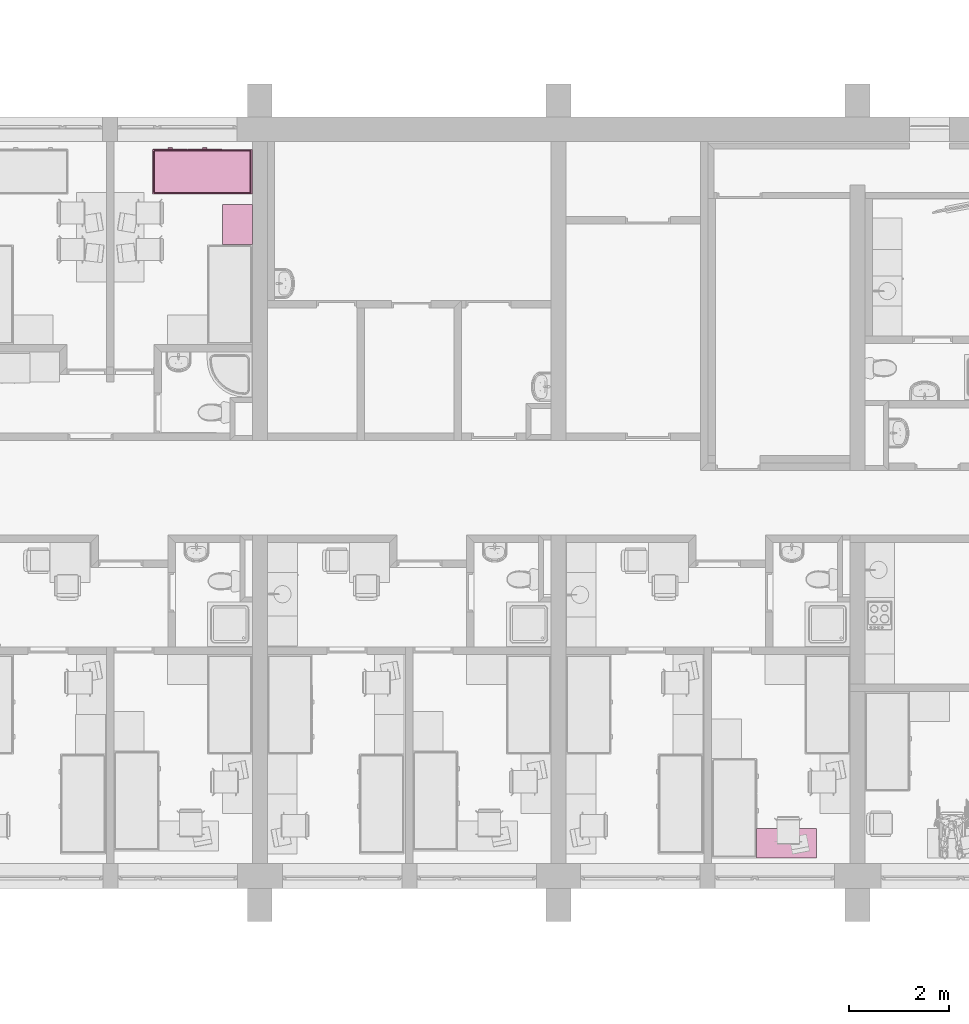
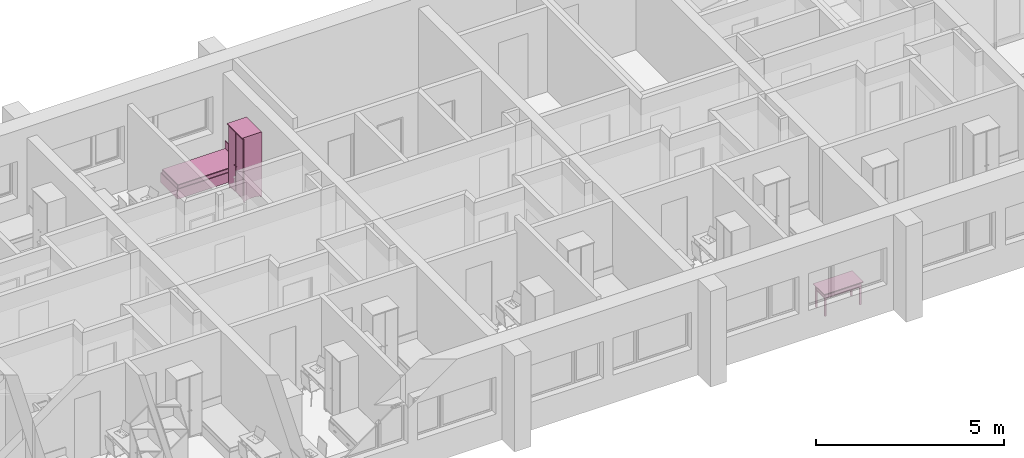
# One storey, part 115 of 172: 3 furnishings.
"""IFC2X3 building model written with IfcOpenShell, lengths in millimetres."""

from ifc_helpers import new_model, entity, si_unit, converted_unit, money_unit, direction, frame, origin_with_axes, place, context, subcontext, project, spatial, faceted_brep, source, transform, mapped, material, material_list, type_object, element, save


model = new_model("IFC2X3")

# Units and contexts
model_context = context("Model", 3, precision=1e-05, world=origin_with_axes(), true_north=direction((0.0, 1.0)))
body_context = subcontext(model_context, "Body", "Model", "MODEL_VIEW")
ifc_project = project(units=[si_unit("LENGTHUNIT", "METRE", prefix="MILLI"), si_unit("AREAUNIT", "SQUARE_METRE"), si_unit("VOLUMEUNIT", "CUBIC_METRE"), converted_unit("PLANEANGLEUNIT", "DEGREE", entity("IfcPlaneAngleMeasure", 0.0174532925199), si_unit("PLANEANGLEUNIT", "RADIAN"), dimensions=[0, 0, 0, 0, 0, 0, 0]), si_unit("SOLIDANGLEUNIT", "STERADIAN"), money_unit("USD"), converted_unit("TIMEUNIT", "Year", entity("IfcTimeMeasure", 31556926.0), si_unit("TIMEUNIT", "SECOND"), dimensions=[0, 0, 0, 0, 0, 0, 0]), si_unit("MASSUNIT", "GRAM"), si_unit("THERMODYNAMICTEMPERATUREUNIT", "DEGREE_CELSIUS"), si_unit("LUMINOUSINTENSITYUNIT", "LUMEN")], contexts=[model_context])

# Site, building, storey
site_placement = place(None, origin_with_axes())
site = spatial("IfcSite", under=ifc_project, at=site_placement, Name="Site", CompositionType="ELEMENT")
building_placement = place(site_placement, origin_with_axes())
building = spatial("IfcBuilding", under=site, at=building_placement, Name="Building", CompositionType="ELEMENT")
storey_placement = place(building_placement, frame((0.0, 0.0, 3200.0), z_axis=(0.0, 0.0, 1.0), x_axis=(1.0, 0.0, 0.0)))
storey = spatial("IfcBuildingStorey", under=building, at=storey_placement, Name="3KORRUS", CompositionType="ELEMENT", Elevation=3200.0)

# Furnishings
ifc_material = material(Name="Background")
ifc_material_list = material_list([ifc_material])
furnishing_element_type_1 = type_object("IfcFurnishingElementType", Name="Rectangular Table 01 19")
shared_shape_1 = source(origin_with_axes(), body_context, "Body", "Brep", [
    faceted_brep([(90.0, 40.0, 0.0), (40.0, 40.0, 0.0), (40.0, 90.0, 0.0), (90.0, 90.0, 0.0), (90.0, 40.0, 725.0), (40.0, 40.0, 725.0), (40.0, 90.0, 725.0), (90.0, 90.0, 725.0)], [[[0, 1, 2, 3]], [[1, 0, 4, 5]], [[2, 1, 5, 6]], [[3, 2, 6, 7]], [[0, 3, 7, 4]], [[5, 4, 7, 6]]]),
    faceted_brep([(1160.0, 40.0, 0.0), (1110.0, 40.0, 0.0), (1110.0, 90.0, 0.0), (1160.0, 90.0, 0.0), (1160.0, 40.0, 725.0), (1110.0, 40.0, 725.0), (1110.0, 90.0, 725.0), (1160.0, 90.0, 725.0)], [[[0, 1, 2, 3]], [[1, 0, 4, 5]], [[2, 1, 5, 6]], [[3, 2, 6, 7]], [[0, 3, 7, 4]], [[5, 4, 7, 6]]]),
    faceted_brep([(90.0, 510.0, 0.0), (40.0, 510.0, 0.0), (40.0, 560.0, 0.0), (90.0, 560.0, 0.0), (90.0, 510.0, 725.0), (40.0, 510.0, 725.0), (40.0, 560.0, 725.0), (90.0, 560.0, 725.0)], [[[0, 1, 2, 3]], [[1, 0, 4, 5]], [[2, 1, 5, 6]], [[3, 2, 6, 7]], [[0, 3, 7, 4]], [[5, 4, 7, 6]]]),
    faceted_brep([(1160.0, 510.0, 0.0), (1110.0, 510.0, 0.0), (1110.0, 560.0, 0.0), (1160.0, 560.0, 0.0), (1160.0, 510.0, 725.0), (1110.0, 510.0, 725.0), (1110.0, 560.0, 725.0), (1160.0, 560.0, 725.0)], [[[0, 1, 2, 3]], [[1, 0, 4, 5]], [[2, 1, 5, 6]], [[3, 2, 6, 7]], [[0, 3, 7, 4]], [[5, 4, 7, 6]]]),
    faceted_brep([(1160.0, 40.0, 565.0), (40.0, 40.0, 565.0), (40.0, 560.0, 565.0), (1160.0, 560.0, 565.0), (1160.0, 40.0, 585.0), (40.0, 40.0, 585.0), (40.0, 560.0, 585.0), (1160.0, 560.0, 585.0)], [[[0, 1, 2, 3]], [[1, 0, 4, 5]], [[2, 1, 5, 6]], [[3, 2, 6, 7]], [[0, 3, 7, 4]], [[5, 4, 7, 6]]]),
    faceted_brep([(1110.0, 52.5, 585.0), (90.0, 52.5, 585.0), (90.0, 77.5, 585.0), (1110.0, 77.5, 585.0), (1110.0, 52.5, 745.0), (90.0, 52.5, 745.0), (90.0, 77.5, 745.0), (1110.0, 77.5, 745.0)], [[[0, 1, 2, 3]], [[1, 0, 4, 5]], [[2, 1, 5, 6]], [[3, 2, 6, 7]], [[0, 3, 7, 4]], [[5, 4, 7, 6]]]),
    faceted_brep([(77.5, 90.0, 585.0), (52.5, 90.0, 585.0), (52.5, 510.0, 585.0), (77.5, 510.0, 585.0), (77.5, 90.0, 745.0), (52.5, 90.0, 745.0), (52.5, 510.0, 745.0), (77.5, 510.0, 745.0)], [[[0, 1, 2, 3]], [[1, 0, 4, 5]], [[2, 1, 5, 6]], [[3, 2, 6, 7]], [[0, 3, 7, 4]], [[5, 4, 7, 6]]]),
    faceted_brep([(90.0, 547.5, 585.0), (1110.0, 547.5, 585.0), (1110.0, 522.5, 585.0), (90.0, 522.5, 585.0), (90.0, 547.5, 745.0), (1110.0, 547.5, 745.0), (1110.0, 522.5, 745.0), (90.0, 522.5, 745.0)], [[[0, 1, 2, 3]], [[1, 0, 4, 5]], [[2, 1, 5, 6]], [[3, 2, 6, 7]], [[0, 3, 7, 4]], [[5, 4, 7, 6]]]),
    faceted_brep([(1122.5, 510.0, 585.0), (1147.5, 510.0, 585.0), (1147.5, 90.0, 585.0), (1122.5, 90.0, 585.0), (1122.5, 510.0, 745.0), (1147.5, 510.0, 745.0), (1147.5, 90.0, 745.0), (1122.5, 90.0, 745.0)], [[[0, 1, 2, 3]], [[1, 0, 4, 5]], [[2, 1, 5, 6]], [[3, 2, 6, 7]], [[0, 3, 7, 4]], [[5, 4, 7, 6]]]),
    faceted_brep([(597.5, 40.0, 585.0), (95.0, 40.0, 585.0), (95.0, 60.0, 585.0), (597.5, 60.0, 585.0), (597.5, 40.0, 745.0), (95.0, 40.0, 745.0), (95.0, 60.0, 745.0), (597.5, 60.0, 745.0)], [[[0, 1, 2, 3]], [[1, 0, 4, 5]], [[2, 1, 5, 6]], [[3, 2, 6, 7]], [[0, 3, 7, 4]], [[5, 4, 7, 6]]]),
    faceted_brep([(1105.0, 40.0, 585.0), (602.5, 40.0, 585.0), (602.5, 60.0, 585.0), (1105.0, 60.0, 585.0), (1105.0, 40.0, 745.0), (602.5, 40.0, 745.0), (602.5, 60.0, 745.0), (1105.0, 60.0, 745.0)], [[[0, 1, 2, 3]], [[1, 0, 4, 5]], [[2, 1, 5, 6]], [[3, 2, 6, 7]], [[0, 3, 7, 4]], [[5, 4, 7, 6]]]),
    faceted_brep([(354.91, 40.0, 660.0), (351.25, 40.0, 656.34), (346.25, 40.0, 655.0), (341.25, 40.0, 656.34), (337.59, 40.0, 660.0), (336.25, 40.0, 665.0), (337.59, 40.0, 670.0), (341.25, 40.0, 673.66), (346.25, 40.0, 675.0), (351.25, 40.0, 673.66), (354.91, 40.0, 670.0), (356.25, 40.0, 665.0), (354.91, 25.0, 660.0), (351.25, 25.0, 656.34), (346.25, 25.0, 655.0), (341.25, 25.0, 656.34), (337.59, 25.0, 660.0), (336.25, 25.0, 665.0), (337.59, 25.0, 670.0), (341.25, 25.0, 673.66), (346.25, 25.0, 675.0), (351.25, 25.0, 673.66), (354.91, 25.0, 670.0), (356.25, 25.0, 665.0)], [[[0, 1, 2, 3, 4, 5, 6, 7, 8, 9, 10, 11]], [[1, 0, 12, 13]], [[2, 1, 13, 14]], [[3, 2, 14, 15]], [[4, 3, 15, 16]], [[5, 4, 16, 17]], [[6, 5, 17, 18]], [[7, 6, 18, 19]], [[8, 7, 19, 20]], [[9, 8, 20, 21]], [[10, 9, 21, 22]], [[11, 10, 22, 23]], [[0, 11, 23, 12]], [[12, 23, 22, 21, 20, 19, 18, 17, 16, 15, 14, 13]]]),
    faceted_brep([(356.25, 12.01, 665.0), (346.25, 10.0, 665.0), (354.91, 12.01, 660.0), (354.91, 12.01, 670.0), (351.25, 12.01, 656.34), (363.571, 17.5, 665.0), (361.25, 17.5, 656.34), (351.25, 12.01, 673.66), (361.25, 17.5, 673.66), (346.25, 12.01, 655.0), (354.91, 17.5, 650.0), (366.25, 25.0, 665.0), (363.571, 25.0, 655.0), (346.25, 12.01, 675.0), (354.91, 17.5, 680.0), (363.571, 25.0, 675.0), (341.25, 12.01, 656.34), (346.25, 17.5, 647.679), (356.25, 25.0, 647.679), (346.25, 25.0, 645.0), (336.25, 25.0, 647.679), (328.929, 25.0, 655.0), (326.25, 25.0, 665.0), (328.929, 25.0, 675.0), (336.25, 25.0, 682.321), (346.25, 25.0, 685.0), (356.25, 25.0, 682.321), (341.25, 12.01, 673.66), (346.25, 17.5, 682.321), (337.59, 12.01, 660.0), (337.59, 17.5, 650.0), (331.25, 17.5, 656.34), (328.929, 17.5, 665.0), (331.25, 17.5, 673.66), (337.59, 17.5, 680.0), (337.59, 12.01, 670.0), (336.25, 12.01, 665.0)], [[[0, 1, 2]], [[3, 1, 0]], [[2, 1, 4]], [[5, 0, 2, 6]], [[7, 1, 3]], [[8, 3, 0, 5]], [[4, 1, 9]], [[6, 2, 4, 10]], [[11, 5, 6, 12]], [[13, 1, 7]], [[14, 7, 3, 8]], [[15, 8, 5, 11]], [[9, 1, 16]], [[10, 4, 9, 17]], [[12, 6, 10, 18]], [[12, 18, 19, 20, 21, 22, 23, 24, 25, 26, 15, 11]], [[27, 1, 13]], [[28, 13, 7, 14]], [[26, 14, 8, 15]], [[16, 1, 29]], [[17, 9, 16, 30]], [[18, 10, 17, 19]], [[19, 17, 30, 20]], [[20, 30, 31, 21]], [[21, 31, 32, 22]], [[22, 32, 33, 23]], [[23, 33, 34, 24]], [[24, 34, 28, 25]], [[25, 28, 14, 26]], [[35, 1, 27]], [[34, 27, 13, 28]], [[29, 1, 36]], [[30, 16, 29, 31]], [[31, 29, 36, 32]], [[32, 36, 35, 33]], [[33, 35, 27, 34]], [[36, 1, 35]]]),
    faceted_brep([(862.41, 40.0, 660.0), (858.75, 40.0, 656.34), (853.75, 40.0, 655.0), (848.75, 40.0, 656.34), (845.09, 40.0, 660.0), (843.75, 40.0, 665.0), (845.09, 40.0, 670.0), (848.75, 40.0, 673.66), (853.75, 40.0, 675.0), (858.75, 40.0, 673.66), (862.41, 40.0, 670.0), (863.75, 40.0, 665.0), (862.41, 25.0, 660.0), (858.75, 25.0, 656.34), (853.75, 25.0, 655.0), (848.75, 25.0, 656.34), (845.09, 25.0, 660.0), (843.75, 25.0, 665.0), (845.09, 25.0, 670.0), (848.75, 25.0, 673.66), (853.75, 25.0, 675.0), (858.75, 25.0, 673.66), (862.41, 25.0, 670.0), (863.75, 25.0, 665.0)], [[[0, 1, 2, 3, 4, 5, 6, 7, 8, 9, 10, 11]], [[1, 0, 12, 13]], [[2, 1, 13, 14]], [[3, 2, 14, 15]], [[4, 3, 15, 16]], [[5, 4, 16, 17]], [[6, 5, 17, 18]], [[7, 6, 18, 19]], [[8, 7, 19, 20]], [[9, 8, 20, 21]], [[10, 9, 21, 22]], [[11, 10, 22, 23]], [[0, 11, 23, 12]], [[12, 23, 22, 21, 20, 19, 18, 17, 16, 15, 14, 13]]]),
    faceted_brep([(863.75, 12.01, 665.0), (853.75, 10.0, 665.0), (862.41, 12.01, 660.0), (862.41, 12.01, 670.0), (858.75, 12.01, 656.34), (871.071, 17.5, 665.0), (868.75, 17.5, 656.34), (858.75, 12.01, 673.66), (868.75, 17.5, 673.66), (853.75, 12.01, 655.0), (862.41, 17.5, 650.0), (873.75, 25.0, 665.0), (871.071, 25.0, 655.0), (853.75, 12.01, 675.0), (862.41, 17.5, 680.0), (871.071, 25.0, 675.0), (848.75, 12.01, 656.34), (853.75, 17.5, 647.679), (863.75, 25.0, 647.679), (853.75, 25.0, 645.0), (843.75, 25.0, 647.679), (836.429, 25.0, 655.0), (833.75, 25.0, 665.0), (836.429, 25.0, 675.0), (843.75, 25.0, 682.321), (853.75, 25.0, 685.0), (863.75, 25.0, 682.321), (848.75, 12.01, 673.66), (853.75, 17.5, 682.321), (845.09, 12.01, 660.0), (845.09, 17.5, 650.0), (838.75, 17.5, 656.34), (836.429, 17.5, 665.0), (838.75, 17.5, 673.66), (845.09, 17.5, 680.0), (845.09, 12.01, 670.0), (843.75, 12.01, 665.0)], [[[0, 1, 2]], [[3, 1, 0]], [[2, 1, 4]], [[5, 0, 2, 6]], [[7, 1, 3]], [[8, 3, 0, 5]], [[4, 1, 9]], [[6, 2, 4, 10]], [[11, 5, 6, 12]], [[13, 1, 7]], [[14, 7, 3, 8]], [[15, 8, 5, 11]], [[9, 1, 16]], [[10, 4, 9, 17]], [[12, 6, 10, 18]], [[12, 18, 19, 20, 21, 22, 23, 24, 25, 26, 15, 11]], [[27, 1, 13]], [[28, 13, 7, 14]], [[26, 14, 8, 15]], [[16, 1, 29]], [[17, 9, 16, 30]], [[18, 10, 17, 19]], [[19, 17, 30, 20]], [[20, 30, 31, 21]], [[21, 31, 32, 22]], [[22, 32, 33, 23]], [[23, 33, 34, 24]], [[24, 34, 28, 25]], [[25, 28, 14, 26]], [[35, 1, 27]], [[34, 27, 13, 28]], [[29, 1, 36]], [[30, 16, 29, 31]], [[31, 29, 36, 32]], [[32, 36, 35, 33]], [[33, 35, 27, 34]], [[36, 1, 35]]]),
    faceted_brep([(1200.0, 0.0, 725.0), (0.0, 0.0, 725.0), (0.0, 600.0, 725.0), (1200.0, 600.0, 725.0), (1200.0, 0.0, 750.0), (0.0, 0.0, 750.0), (0.0, 600.0, 750.0), (1200.0, 600.0, 750.0)], [[[0, 1, 2, 3]], [[1, 0, 4, 5]], [[2, 1, 5, 6]], [[3, 2, 6, 7]], [[0, 3, 7, 4]], [[5, 4, 7, 6]]]),
])
furnishing_1_placement = place(storey_placement, frame((-18965.2967033, -18929.2398994, 0.0), z_axis=(0.0, 0.0, 1.0), x_axis=(-1.0, 0.0, 0.0)))
element("IfcFurnishingElement", 1, at=furnishing_1_placement, inside=storey, type_object=furnishing_element_type_1, material=ifc_material_list, Name="FU - 011", context=body_context, shape_type="MappedRepresentation", body=[
    mapped(shared_shape_1, transform((0.0, 0.0, 0.0))),
])
furnishing_element_type_2 = type_object("IfcFurnishingElementType", Name="Cupboard 19")
shared_shape_2 = source(origin_with_axes(), body_context, "Body", "Brep", [
    faceted_brep([(-780.0, 600.0, 120.0), (-780.0, 580.0, 120.0), (-780.0, 580.0, 2050.0), (-780.0, 600.0, 2050.0), (-20.0, 600.0, 120.0), (-20.0, 580.0, 120.0), (-20.0, 580.0, 2050.0), (-20.0, 600.0, 2050.0)], [[[0, 1, 2, 3]], [[0, 4, 5, 1]], [[1, 5, 6, 2]], [[3, 2, 6, 7]], [[4, 0, 3, 7]], [[5, 4, 7, 6]]]),
    faceted_brep([(0.0, 50.0, 100.0), (-20.0, 50.0, 100.0), (-20.0, 600.0, 100.0), (0.0, 600.0, 100.0), (0.0, 50.0, 2070.0), (-20.0, 50.0, 2070.0), (-20.0, 600.0, 2070.0), (0.0, 600.0, 2070.0)], [[[0, 1, 2, 3]], [[1, 0, 4, 5]], [[2, 1, 5, 6]], [[3, 2, 6, 7]], [[0, 3, 7, 4]], [[5, 4, 7, 6]]]),
    faceted_brep([(-780.0, 50.0, 100.0), (-800.0, 50.0, 100.0), (-800.0, 600.0, 100.0), (-780.0, 600.0, 100.0), (-780.0, 50.0, 2070.0), (-800.0, 50.0, 2070.0), (-800.0, 600.0, 2070.0), (-780.0, 600.0, 2070.0)], [[[0, 1, 2, 3]], [[1, 0, 4, 5]], [[2, 1, 5, 6]], [[3, 2, 6, 7]], [[0, 3, 7, 4]], [[5, 4, 7, 6]]]),
    faceted_brep([(-20.0, 50.0, 100.0), (-780.0, 50.0, 100.0), (-780.0, 600.0, 100.0), (-20.0, 600.0, 100.0), (-20.0, 50.0, 120.0), (-780.0, 50.0, 120.0), (-780.0, 600.0, 120.0), (-20.0, 600.0, 120.0)], [[[0, 1, 2, 3]], [[1, 0, 4, 5]], [[2, 1, 5, 6]], [[3, 2, 6, 7]], [[0, 3, 7, 4]], [[5, 4, 7, 6]]]),
    faceted_brep([(-20.0, 50.0, 2050.0), (-780.0, 50.0, 2050.0), (-780.0, 600.0, 2050.0), (-20.0, 600.0, 2050.0), (-20.0, 50.0, 2070.0), (-780.0, 50.0, 2070.0), (-780.0, 600.0, 2070.0), (-20.0, 600.0, 2070.0)], [[[0, 1, 2, 3]], [[1, 0, 4, 5]], [[2, 1, 5, 6]], [[3, 2, 6, 7]], [[0, 3, 7, 4]], [[5, 4, 7, 6]]]),
    faceted_brep([(0.0, 600.0, 2070.0), (0.0, 600.0, 2100.0), (0.0, 0.0, 2100.0), (0.0, 0.0, 2070.0), (-800.0, 600.0, 2070.0), (-800.0, 600.0, 2100.0), (-800.0, 0.0, 2100.0), (-800.0, 0.0, 2070.0)], [[[0, 1, 2, 3]], [[4, 5, 1, 0]], [[1, 5, 6, 2]], [[3, 2, 6, 7]], [[0, 3, 7, 4]], [[7, 6, 5, 4]]]),
    faceted_brep([(-760.0, 590.0, 25.0), (-640.962, 590.0, 45.8), (-640.962, 570.0, 45.8), (-760.0, 570.0, 25.0), (-760.0, 590.0, 100.0), (-40.0, 590.0, 100.0), (-40.0, 590.0, 25.0), (-159.038, 590.0, 45.8), (-279.23, 590.0, 58.32), (-400.0, 590.0, 62.5), (-520.77, 590.0, 58.32), (-520.77, 570.0, 58.32), (-400.0, 570.0, 62.5), (-279.23, 570.0, 58.32), (-159.038, 570.0, 45.8), (-40.0, 570.0, 25.0), (-40.0, 570.0, 100.0), (-760.0, 570.0, 100.0)], [[[0, 1, 2, 3]], [[0, 4, 5, 6, 7, 8, 9, 10, 1]], [[1, 10, 11, 2]], [[3, 2, 11, 12, 13, 14, 15, 16, 17]], [[4, 0, 3, 17]], [[5, 4, 17, 16]], [[6, 5, 16, 15]], [[7, 6, 15, 14]], [[8, 7, 14, 13]], [[9, 8, 13, 12]], [[10, 9, 12, 11]]]),
    faceted_brep([(-760.0, 80.0, 25.0), (-640.962, 80.0, 45.8), (-640.962, 60.0, 45.8), (-760.0, 60.0, 25.0), (-760.0, 80.0, 100.0), (-40.0, 80.0, 100.0), (-40.0, 80.0, 25.0), (-159.038, 80.0, 45.8), (-279.23, 80.0, 58.32), (-400.0, 80.0, 62.5), (-520.77, 80.0, 58.32), (-520.77, 60.0, 58.32), (-400.0, 60.0, 62.5), (-279.23, 60.0, 58.32), (-159.038, 60.0, 45.8), (-40.0, 60.0, 25.0), (-40.0, 60.0, 100.0), (-760.0, 60.0, 100.0)], [[[0, 1, 2, 3]], [[0, 4, 5, 6, 7, 8, 9, 10, 1]], [[1, 10, 11, 2]], [[3, 2, 11, 12, 13, 14, 15, 16, 17]], [[4, 0, 3, 17]], [[5, 4, 17, 16]], [[6, 5, 16, 15]], [[7, 6, 15, 14]], [[8, 7, 14, 13]], [[9, 8, 13, 12]], [[10, 9, 12, 11]]]),
    faceted_brep([(-790.0, 90.0, 25.0), (-790.0, 141.266, 38.072), (-770.0, 141.266, 38.072), (-770.0, 90.0, 25.0), (-790.0, 90.0, 100.0), (-790.0, 560.0, 100.0), (-790.0, 560.0, 25.0), (-790.0, 508.734, 38.072), (-790.0, 456.752, 47.92), (-790.0, 404.257, 54.508), (-790.0, 351.453, 57.808), (-790.0, 298.547, 57.808), (-790.0, 245.743, 54.508), (-790.0, 193.248, 47.92), (-770.0, 193.248, 47.92), (-770.0, 245.743, 54.508), (-770.0, 298.547, 57.808), (-770.0, 351.453, 57.808), (-770.0, 404.257, 54.508), (-770.0, 456.752, 47.92), (-770.0, 508.734, 38.072), (-770.0, 560.0, 25.0), (-770.0, 560.0, 100.0), (-770.0, 90.0, 100.0)], [[[0, 1, 2, 3]], [[0, 4, 5, 6, 7, 8, 9, 10, 11, 12, 13, 1]], [[1, 13, 14, 2]], [[3, 2, 14, 15, 16, 17, 18, 19, 20, 21, 22, 23]], [[4, 0, 3, 23]], [[5, 4, 23, 22]], [[6, 5, 22, 21]], [[7, 6, 21, 20]], [[8, 7, 20, 19]], [[9, 8, 19, 18]], [[10, 9, 18, 17]], [[11, 10, 17, 16]], [[12, 11, 16, 15]], [[13, 12, 15, 14]]]),
    faceted_brep([(-30.0, 90.0, 25.0), (-30.0, 141.266, 38.072), (-10.0, 141.266, 38.072), (-10.0, 90.0, 25.0), (-30.0, 90.0, 100.0), (-30.0, 560.0, 100.0), (-30.0, 560.0, 25.0), (-30.0, 508.734, 38.072), (-30.0, 456.752, 47.92), (-30.0, 404.257, 54.508), (-30.0, 351.453, 57.808), (-30.0, 298.547, 57.808), (-30.0, 245.743, 54.508), (-30.0, 193.248, 47.92), (-10.0, 193.248, 47.92), (-10.0, 245.743, 54.508), (-10.0, 298.547, 57.808), (-10.0, 351.453, 57.808), (-10.0, 404.257, 54.508), (-10.0, 456.752, 47.92), (-10.0, 508.734, 38.072), (-10.0, 560.0, 25.0), (-10.0, 560.0, 100.0), (-10.0, 90.0, 100.0)], [[[0, 1, 2, 3]], [[0, 4, 5, 6, 7, 8, 9, 10, 11, 12, 13, 1]], [[1, 13, 14, 2]], [[3, 2, 14, 15, 16, 17, 18, 19, 20, 21, 22, 23]], [[4, 0, 3, 23]], [[5, 4, 23, 22]], [[6, 5, 22, 21]], [[7, 6, 21, 20]], [[8, 7, 20, 19]], [[9, 8, 19, 18]], [[10, 9, 18, 17]], [[11, 10, 17, 16]], [[12, 11, 16, 15]], [[13, 12, 15, 14]]]),
    faceted_brep([(-760.0, 560.0, 0.0), (-760.0, 600.0, 0.0), (-760.0, 600.0, 100.0), (-760.0, 560.0, 100.0), (-800.0, 560.0, 0.0), (-800.0, 600.0, 0.0), (-800.0, 600.0, 100.0), (-800.0, 560.0, 100.0)], [[[0, 1, 2, 3]], [[0, 4, 5, 1]], [[1, 5, 6, 2]], [[3, 2, 6, 7]], [[4, 0, 3, 7]], [[5, 4, 7, 6]]]),
    faceted_brep([(0.0, 560.0, 0.0), (0.0, 600.0, 0.0), (0.0, 600.0, 100.0), (0.0, 560.0, 100.0), (-40.0, 560.0, 0.0), (-40.0, 600.0, 0.0), (-40.0, 600.0, 100.0), (-40.0, 560.0, 100.0)], [[[0, 1, 2, 3]], [[0, 4, 5, 1]], [[1, 5, 6, 2]], [[3, 2, 6, 7]], [[4, 0, 3, 7]], [[5, 4, 7, 6]]]),
    faceted_brep([(-760.0, 50.0, 0.0), (-760.0, 90.0, 0.0), (-760.0, 90.0, 100.0), (-760.0, 50.0, 100.0), (-800.0, 50.0, 0.0), (-800.0, 90.0, 0.0), (-800.0, 90.0, 100.0), (-800.0, 50.0, 100.0)], [[[0, 1, 2, 3]], [[0, 4, 5, 1]], [[1, 5, 6, 2]], [[3, 2, 6, 7]], [[4, 0, 3, 7]], [[5, 4, 7, 6]]]),
    faceted_brep([(0.0, 50.0, 0.0), (0.0, 90.0, 0.0), (0.0, 90.0, 100.0), (0.0, 50.0, 100.0), (-40.0, 50.0, 0.0), (-40.0, 90.0, 0.0), (-40.0, 90.0, 100.0), (-40.0, 50.0, 100.0)], [[[0, 1, 2, 3]], [[0, 4, 5, 1]], [[1, 5, 6, 2]], [[3, 2, 6, 7]], [[4, 0, 3, 7]], [[5, 4, 7, 6]]]),
    faceted_brep([(-780.0, 580.0, 587.5), (-780.0, 50.0, 587.5), (-780.0, 50.0, 607.5), (-780.0, 580.0, 607.5), (-20.0, 580.0, 587.5), (-20.0, 50.0, 587.5), (-20.0, 50.0, 607.5), (-20.0, 580.0, 607.5)], [[[0, 1, 2, 3]], [[0, 4, 5, 1]], [[1, 5, 6, 2]], [[3, 2, 6, 7]], [[4, 0, 3, 7]], [[5, 4, 7, 6]]]),
    faceted_brep([(-780.0, 580.0, 1075.0), (-780.0, 50.0, 1075.0), (-780.0, 50.0, 1095.0), (-780.0, 580.0, 1095.0), (-20.0, 580.0, 1075.0), (-20.0, 50.0, 1075.0), (-20.0, 50.0, 1095.0), (-20.0, 580.0, 1095.0)], [[[0, 1, 2, 3]], [[0, 4, 5, 1]], [[1, 5, 6, 2]], [[3, 2, 6, 7]], [[4, 0, 3, 7]], [[5, 4, 7, 6]]]),
    faceted_brep([(-780.0, 580.0, 1562.5), (-780.0, 50.0, 1562.5), (-780.0, 50.0, 1582.5), (-780.0, 580.0, 1582.5), (-20.0, 580.0, 1562.5), (-20.0, 50.0, 1562.5), (-20.0, 50.0, 1582.5), (-20.0, 580.0, 1582.5)], [[[0, 1, 2, 3]], [[0, 4, 5, 1]], [[1, 5, 6, 2]], [[3, 2, 6, 7]], [[4, 0, 3, 7]], [[5, 4, 7, 6]]]),
    faceted_brep([(-789.5, 50.0, 110.5), (-789.5, 50.0, 2059.5), (-400.5, 50.0, 2059.5), (-400.5, 50.0, 110.5), (-789.5, 40.0, 110.5), (-789.5, 40.0, 2059.5), (-400.5, 40.0, 2059.5), (-400.5, 40.0, 110.5), (-779.5, 30.0, 120.5), (-779.5, 30.0, 2049.5), (-410.5, 30.0, 2049.5), (-410.5, 30.0, 120.5)], [[[0, 1, 2, 3]], [[1, 0, 4, 5]], [[2, 1, 5, 6]], [[3, 2, 6, 7]], [[0, 3, 7, 4]], [[5, 4, 8, 9]], [[6, 5, 9, 10]], [[7, 6, 10, 11]], [[4, 7, 11, 8]], [[10, 9, 8, 11]]]),
    faceted_brep([(-399.5, 50.0, 110.5), (-399.5, 50.0, 2059.5), (-10.5, 50.0, 2059.5), (-10.5, 50.0, 110.5), (-399.5, 40.0, 110.5), (-399.5, 40.0, 2059.5), (-10.5, 40.0, 2059.5), (-10.5, 40.0, 110.5), (-389.5, 30.0, 120.5), (-389.5, 30.0, 2049.5), (-20.5, 30.0, 2049.5), (-20.5, 30.0, 120.5)], [[[0, 1, 2, 3]], [[1, 0, 4, 5]], [[2, 1, 5, 6]], [[3, 2, 6, 7]], [[0, 3, 7, 4]], [[5, 4, 8, 9]], [[6, 5, 9, 10]], [[7, 6, 10, 11]], [[4, 7, 11, 8]], [[10, 9, 8, 11]]]),
    faceted_brep([(-339.608, 30.0, 954.0), (-344.0, 30.0, 949.608), (-350.0, 30.0, 948.0), (-356.0, 30.0, 949.608), (-360.392, 30.0, 954.0), (-362.0, 30.0, 960.0), (-360.392, 30.0, 966.0), (-356.0, 30.0, 970.392), (-350.0, 30.0, 972.0), (-344.0, 30.0, 970.392), (-339.608, 30.0, 966.0), (-338.0, 30.0, 960.0), (-339.608, 5.0, 954.0), (-344.0, 5.0, 949.608), (-350.0, 5.0, 948.0), (-356.0, 5.0, 949.608), (-360.392, 5.0, 954.0), (-362.0, 5.0, 960.0), (-360.392, 5.0, 966.0), (-356.0, 5.0, 970.392), (-350.0, 5.0, 972.0), (-344.0, 5.0, 970.392), (-339.608, 5.0, 966.0), (-338.0, 5.0, 960.0)], [[[0, 1, 2, 3, 4, 5, 6, 7, 8, 9, 10, 11]], [[1, 0, 12, 13]], [[2, 1, 13, 14]], [[3, 2, 14, 15]], [[4, 3, 15, 16]], [[5, 4, 16, 17]], [[6, 5, 17, 18]], [[7, 6, 18, 19]], [[8, 7, 19, 20]], [[9, 8, 20, 21]], [[10, 9, 21, 22]], [[11, 10, 22, 23]], [[0, 11, 23, 12]], [[12, 23, 22, 21, 20, 19, 18, 17, 16, 15, 14, 13]]]),
    faceted_brep([(-460.392, 30.0, 954.0), (-462.0, 30.0, 960.0), (-460.392, 30.0, 966.0), (-456.0, 30.0, 970.392), (-450.0, 30.0, 972.0), (-444.0, 30.0, 970.392), (-439.608, 30.0, 966.0), (-438.0, 30.0, 960.0), (-439.608, 30.0, 954.0), (-444.0, 30.0, 949.608), (-450.0, 30.0, 948.0), (-456.0, 30.0, 949.608), (-460.392, 5.0, 954.0), (-462.0, 5.0, 960.0), (-460.392, 5.0, 966.0), (-456.0, 5.0, 970.392), (-450.0, 5.0, 972.0), (-444.0, 5.0, 970.392), (-439.608, 5.0, 966.0), (-438.0, 5.0, 960.0), (-439.608, 5.0, 954.0), (-444.0, 5.0, 949.608), (-450.0, 5.0, 948.0), (-456.0, 5.0, 949.608)], [[[0, 1, 2, 3, 4, 5, 6, 7, 8, 9, 10, 11]], [[0, 12, 13, 1]], [[1, 13, 14, 2]], [[2, 14, 15, 3]], [[3, 15, 16, 4]], [[4, 16, 17, 5]], [[5, 17, 18, 6]], [[6, 18, 19, 7]], [[7, 19, 20, 8]], [[8, 20, 21, 9]], [[9, 21, 22, 10]], [[10, 22, 23, 11]], [[11, 23, 12, 0]], [[12, 23, 22, 21, 20, 19, 18, 17, 16, 15, 14, 13]]]),
])
furnishing_2_placement = place(storey_placement, frame((-30890.2967033, -7206.41563755, 0.0), z_axis=(0.0, 0.0, 1.0), x_axis=(0.0, -1.0, 0.0)))
element("IfcFurnishingElement", 2, at=furnishing_2_placement, inside=storey, type_object=furnishing_element_type_2, material=ifc_material_list, Name="FU - 014", context=body_context, shape_type="MappedRepresentation", body=[
    mapped(shared_shape_2, transform((0.0, 0.0, 0.0))),
])
furnishing_element_type_3 = type_object("IfcFurnishingElementType", Name="Bed 19")
shared_shape_3 = source(origin_with_axes(), body_context, "Body", "Brep", [
    faceted_brep([(-900.0, 1970.0, 0.0), (-900.0, 2000.0, 0.0), (0.0, 2000.0, 0.0), (0.0, 1970.0, 0.0), (-900.0, 1970.0, 660.0), (-900.0, 2000.0, 660.0), (0.0, 2000.0, 660.0), (0.0, 1970.0, 660.0)], [[[0, 1, 2, 3]], [[0, 4, 5, 1]], [[1, 5, 6, 2]], [[2, 6, 7, 3]], [[3, 7, 4, 0]], [[7, 6, 5, 4]]]),
    faceted_brep([(-900.0, 0.0, 0.0), (-900.0, 1970.0, 0.0), (0.0, 1970.0, 0.0), (0.0, 0.0, 0.0), (-900.0, 0.0, 320.0), (-900.0, 1970.0, 320.0), (0.0, 1970.0, 320.0), (0.0, 0.0, 320.0)], [[[0, 1, 2, 3]], [[0, 4, 5, 1]], [[1, 5, 6, 2]], [[2, 6, 7, 3]], [[3, 7, 4, 0]], [[7, 6, 5, 4]]]),
    faceted_brep([(-905.0, 10.0, 30.0), (-905.0, 695.0, 30.0), (-900.0, 695.0, 30.0), (-900.0, 10.0, 30.0), (-905.0, 10.0, 290.0), (-905.0, 695.0, 290.0), (-900.0, 695.0, 290.0), (-900.0, 10.0, 290.0)], [[[0, 1, 2, 3]], [[0, 4, 5, 1]], [[1, 5, 6, 2]], [[2, 6, 7, 3]], [[3, 7, 4, 0]], [[7, 6, 5, 4]]]),
    faceted_brep([(-935.0, 307.5, 150.0), (-935.0, 397.5, 150.0), (-905.0, 397.5, 150.0), (-905.0, 307.5, 150.0), (-935.0, 307.5, 170.0), (-935.0, 397.5, 170.0), (-905.0, 397.5, 170.0), (-905.0, 307.5, 170.0)], [[[0, 1, 2, 3]], [[0, 4, 5, 1]], [[1, 5, 6, 2]], [[2, 6, 7, 3]], [[3, 7, 4, 0]], [[7, 6, 5, 4]]]),
    faceted_brep([(-905.0, 705.0, 30.0), (-905.0, 1390.0, 30.0), (-900.0, 1390.0, 30.0), (-900.0, 705.0, 30.0), (-905.0, 705.0, 290.0), (-905.0, 1390.0, 290.0), (-900.0, 1390.0, 290.0), (-900.0, 705.0, 290.0)], [[[0, 1, 2, 3]], [[0, 4, 5, 1]], [[1, 5, 6, 2]], [[2, 6, 7, 3]], [[3, 7, 4, 0]], [[7, 6, 5, 4]]]),
    faceted_brep([(-935.0, 1002.5, 150.0), (-935.0, 1092.5, 150.0), (-905.0, 1092.5, 150.0), (-905.0, 1002.5, 150.0), (-935.0, 1002.5, 170.0), (-935.0, 1092.5, 170.0), (-905.0, 1092.5, 170.0), (-905.0, 1002.5, 170.0)], [[[0, 1, 2, 3]], [[0, 4, 5, 1]], [[1, 5, 6, 2]], [[2, 6, 7, 3]], [[3, 7, 4, 0]], [[7, 6, 5, 4]]]),
    faceted_brep([(-20.0, 40.0, 350.0), (-21.522, 32.346, 350.0), (-25.858, 25.858, 350.0), (-32.346, 21.522, 350.0), (-40.0, 20.0, 350.0), (-860.0, 20.0, 350.0), (-867.654, 21.522, 350.0), (-874.142, 25.858, 350.0), (-878.478, 32.346, 350.0), (-880.0, 40.0, 350.0), (-880.0, 1950.0, 350.0), (-878.478, 1957.654, 350.0), (-874.142, 1964.142, 350.0), (-867.654, 1968.478, 350.0), (-860.0, 1970.0, 350.0), (-40.0, 1970.0, 350.0), (-32.346, 1968.478, 350.0), (-25.858, 1964.142, 350.0), (-21.522, 1957.654, 350.0), (-20.0, 1950.0, 350.0), (-20.0, 40.0, 420.0), (-21.522, 32.346, 420.0), (-25.858, 25.858, 420.0), (-32.346, 21.522, 420.0), (-40.0, 20.0, 420.0), (-860.0, 20.0, 420.0), (-867.654, 21.522, 420.0), (-874.142, 25.858, 420.0), (-878.478, 32.346, 420.0), (-880.0, 40.0, 420.0), (-880.0, 1950.0, 420.0), (-878.478, 1957.654, 420.0), (-874.142, 1964.142, 420.0), (-867.654, 1968.478, 420.0), (-860.0, 1970.0, 420.0), (-40.0, 1970.0, 420.0), (-32.346, 1968.478, 420.0), (-25.858, 1964.142, 420.0), (-21.522, 1957.654, 420.0), (-20.0, 1950.0, 420.0), (-21.522, 40.15, 427.654), (-22.956, 32.94, 427.654), (-26.955, 26.955, 427.654), (-32.94, 22.956, 427.654), (-40.15, 21.522, 427.654), (-859.85, 21.522, 427.654), (-867.06, 22.956, 427.654), (-873.045, 26.955, 427.654), (-877.044, 32.94, 427.654), (-878.478, 40.15, 427.654), (-878.478, 1949.85, 427.654), (-877.044, 1957.06, 427.654), (-873.045, 1963.045, 427.654), (-867.06, 1967.044, 427.654), (-859.85, 1968.478, 427.654), (-40.15, 1968.478, 427.654), (-32.94, 1967.044, 427.654), (-26.955, 1963.045, 427.654), (-22.956, 1957.06, 427.654), (-21.522, 1949.85, 427.654), (-32.346, 41.216, 438.478), (-33.152, 37.164, 438.478), (-34.759, 34.759, 438.478), (-37.164, 33.152, 438.478), (-41.216, 32.346, 438.478), (-858.784, 32.346, 438.478), (-862.836, 33.152, 438.478), (-865.241, 34.759, 438.478), (-866.848, 37.164, 438.478), (-867.654, 41.216, 438.478), (-867.654, 1948.784, 438.478), (-866.848, 1952.836, 438.478), (-865.241, 1955.241, 438.478), (-862.836, 1956.848, 438.478), (-858.784, 1957.654, 438.478), (-41.216, 1957.654, 438.478), (-37.164, 1956.848, 438.478), (-34.759, 1955.241, 438.478), (-33.152, 1952.836, 438.478), (-32.346, 1948.784, 438.478), (-40.0, 41.97, 440.0), (-40.327, 40.327, 440.0), (-40.0, 40.0, 439.924), (-41.97, 40.0, 440.0), (-858.03, 40.0, 440.0), (-859.673, 40.327, 440.0), (-860.0, 40.0, 439.924), (-860.0, 41.97, 440.0), (-860.0, 1948.03, 440.0), (-859.673, 1949.673, 440.0), (-860.0, 1950.0, 439.924), (-858.03, 1950.0, 440.0), (-41.97, 1950.0, 440.0), (-40.327, 1949.673, 440.0), (-40.0, 1950.0, 439.924), (-40.0, 1948.03, 440.0)], [[[0, 1, 2, 3, 4, 5, 6, 7, 8, 9, 10, 11, 12, 13, 14, 15, 16, 17, 18, 19]], [[0, 20, 21, 1]], [[1, 21, 22, 2]], [[2, 22, 23, 3]], [[3, 23, 24, 4]], [[4, 24, 25, 5]], [[5, 25, 26, 6]], [[6, 26, 27, 7]], [[7, 27, 28, 8]], [[8, 28, 29, 9]], [[9, 29, 30, 10]], [[10, 30, 31, 11]], [[11, 31, 32, 12]], [[12, 32, 33, 13]], [[13, 33, 34, 14]], [[14, 34, 35, 15]], [[15, 35, 36, 16]], [[16, 36, 37, 17]], [[17, 37, 38, 18]], [[18, 38, 39, 19]], [[19, 39, 20, 0]], [[20, 40, 41, 21]], [[21, 41, 42, 22]], [[22, 42, 43, 23]], [[23, 43, 44, 24]], [[24, 44, 45, 25]], [[25, 45, 46, 26]], [[26, 46, 47, 27]], [[27, 47, 48, 28]], [[28, 48, 49, 29]], [[29, 49, 50, 30]], [[30, 50, 51, 31]], [[31, 51, 52, 32]], [[32, 52, 53, 33]], [[33, 53, 54, 34]], [[34, 54, 55, 35]], [[35, 55, 56, 36]], [[36, 56, 57, 37]], [[37, 57, 58, 38]], [[38, 58, 59, 39]], [[39, 59, 40, 20]], [[40, 60, 61, 41]], [[41, 61, 62, 42]], [[42, 62, 63, 43]], [[43, 63, 64, 44]], [[44, 64, 65, 45]], [[45, 65, 66, 46]], [[46, 66, 67, 47]], [[47, 67, 68, 48]], [[48, 68, 69, 49]], [[49, 69, 70, 50]], [[50, 70, 71, 51]], [[51, 71, 72, 52]], [[52, 72, 73, 53]], [[53, 73, 74, 54]], [[54, 74, 75, 55]], [[55, 75, 76, 56]], [[56, 76, 77, 57]], [[57, 77, 78, 58]], [[58, 78, 79, 59]], [[59, 79, 60, 40]], [[60, 80, 81, 82, 61]], [[61, 82, 62]], [[62, 82, 63]], [[63, 82, 81, 83, 64]], [[64, 83, 84, 65]], [[65, 84, 85, 86, 66]], [[66, 86, 67]], [[67, 86, 68]], [[68, 86, 85, 87, 69]], [[69, 87, 88, 70]], [[70, 88, 89, 90, 71]], [[71, 90, 72]], [[72, 90, 73]], [[73, 90, 89, 91, 74]], [[74, 91, 92, 75]], [[75, 92, 93, 94, 76]], [[76, 94, 77]], [[77, 94, 78]], [[78, 94, 93, 95, 79]], [[79, 95, 80, 60]], [[95, 93, 92, 91, 89, 88, 87, 85, 84, 83, 81, 80]]]),
    faceted_brep([(-20.0, 40.0, 350.0), (-20.0, 1950.0, 350.0), (-21.522, 1957.654, 350.0), (-25.858, 1964.142, 350.0), (-32.346, 1968.478, 350.0), (-40.0, 1970.0, 350.0), (-860.0, 1970.0, 350.0), (-867.654, 1968.478, 350.0), (-874.142, 1964.142, 350.0), (-878.478, 1957.654, 350.0), (-880.0, 1950.0, 350.0), (-880.0, 40.0, 350.0), (-878.478, 32.346, 350.0), (-874.142, 25.858, 350.0), (-867.654, 21.522, 350.0), (-860.0, 20.0, 350.0), (-40.0, 20.0, 350.0), (-32.346, 21.522, 350.0), (-25.858, 25.858, 350.0), (-21.522, 32.346, 350.0), (-20.0, 40.0, 320.0), (-20.0, 1950.0, 320.0), (-21.522, 1957.654, 320.0), (-25.858, 1964.142, 320.0), (-32.346, 1968.478, 320.0), (-40.0, 1970.0, 320.0), (-860.0, 1970.0, 320.0), (-867.654, 1968.478, 320.0), (-874.142, 1964.142, 320.0), (-878.478, 1957.654, 320.0), (-880.0, 1950.0, 320.0), (-880.0, 40.0, 320.0), (-878.478, 32.346, 320.0), (-874.142, 25.858, 320.0), (-867.654, 21.522, 320.0), (-860.0, 20.0, 320.0), (-40.0, 20.0, 320.0), (-32.346, 21.522, 320.0), (-25.858, 25.858, 320.0), (-21.522, 32.346, 320.0)], [[[0, 1, 2, 3, 4, 5, 6, 7, 8, 9, 10, 11, 12, 13, 14, 15, 16, 17, 18, 19]], [[1, 0, 20, 21]], [[2, 1, 21, 22]], [[3, 2, 22, 23]], [[4, 3, 23, 24]], [[5, 4, 24, 25]], [[6, 5, 25, 26]], [[7, 6, 26, 27]], [[8, 7, 27, 28]], [[9, 8, 28, 29]], [[10, 9, 29, 30]], [[11, 10, 30, 31]], [[12, 11, 31, 32]], [[13, 12, 32, 33]], [[14, 13, 33, 34]], [[15, 14, 34, 35]], [[16, 15, 35, 36]], [[17, 16, 36, 37]], [[18, 17, 37, 38]], [[19, 18, 38, 39]], [[0, 19, 39, 20]], [[20, 39, 38, 37, 36, 35, 34, 33, 32, 31, 30, 29, 28, 27, 26, 25, 24, 23, 22, 21]]]),
])
furnishing_3_placement = place(storey_placement, frame((-32290.2967033, -6193.677052, 0.0), z_axis=(0.0, 0.0, 1.0), x_axis=(0.0, -1.0, 0.0)))
element("IfcFurnishingElement", 3, at=furnishing_3_placement, inside=storey, type_object=furnishing_element_type_3, material=ifc_material_list, Name="FU - 013", context=body_context, shape_type="MappedRepresentation", body=[
    mapped(shared_shape_3, transform((0.0, 0.0, 0.0))),
])

save(model, "model.ifc")
